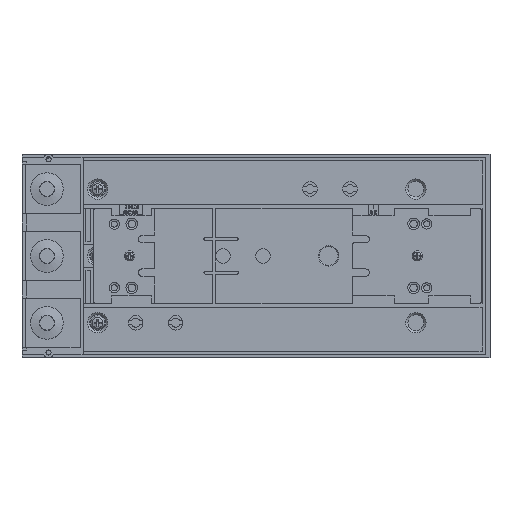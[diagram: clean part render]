
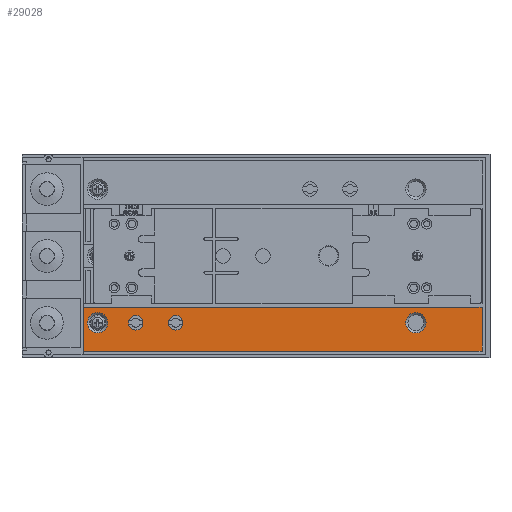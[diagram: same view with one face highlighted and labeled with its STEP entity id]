
A CAD part, top view. The second image highlights one B-rep face of the part: STEP entity #29028.
In plain terms, the highlighted planar face has unit normal (0, 0, 1).
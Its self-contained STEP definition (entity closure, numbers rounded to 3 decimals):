
#3024 = ORIENTED_EDGE ( 'NONE', *, *, #46141, .T. ) ;
#4085 = LINE ( 'NONE', #52240, #6666 ) ;
#4340 = AXIS2_PLACEMENT_3D ( 'NONE', #22448, #17775, #22093 ) ;
#4425 = ORIENTED_EDGE ( 'NONE', *, *, #5779, .T. ) ;
#4798 = VERTEX_POINT ( 'NONE', #44495 ) ;
#4905 = EDGE_LOOP ( 'NONE', ( #4425 ) ) ;
#5361 = EDGE_CURVE ( 'NONE', #17923, #17923, #33989, .T. ) ;
#5779 = EDGE_CURVE ( 'NONE', #8972, #8972, #48704, .T. ) ;
#6289 = EDGE_LOOP ( 'NONE', ( #36161 ) ) ;
#6652 = VECTOR ( 'NONE', #25416, 1000. ) ;
#6666 = VECTOR ( 'NONE', #27742, 1000. ) ;
#7605 = ORIENTED_EDGE ( 'NONE', *, *, #19253, .T. ) ;
#8539 = CARTESIAN_POINT ( 'NONE',  ( -82.75, -46., 39.25 ) ) ;
#8972 = VERTEX_POINT ( 'NONE', #39135 ) ;
#9272 = FACE_BOUND ( 'NONE', #6289, .T. ) ;
#9629 = CARTESIAN_POINT ( 'NONE',  ( 0., -65.5, 39.25 ) ) ;
#10247 = EDGE_CURVE ( 'NONE', #4798, #16033, #39932, .T. ) ;
#10611 = CARTESIAN_POINT ( 'NONE',  ( 0., -35.25, 39.25 ) ) ;
#10752 = AXIS2_PLACEMENT_3D ( 'NONE', #8539, #13067, #45766 ) ;
#10778 = AXIS2_PLACEMENT_3D ( 'NONE', #49723, #37743, #46121 ) ;
#13067 = DIRECTION ( 'NONE',  ( 0., 0., -1. ) ) ;
#13879 = VECTOR ( 'NONE', #21272, 1000. ) ;
#14032 = EDGE_CURVE ( 'NONE', #37766, #37766, #21713, .T. ) ;
#16033 = VERTEX_POINT ( 'NONE', #18681 ) ;
#16308 = FACE_OUTER_BOUND ( 'NONE', #50640, .T. ) ;
#17456 = CIRCLE ( 'NONE', #10752, 5. ) ;
#17775 = DIRECTION ( 'NONE',  ( 0., 0., -1. ) ) ;
#17923 = VERTEX_POINT ( 'NONE', #39472 ) ;
#18224 = FACE_BOUND ( 'NONE', #4905, .T. ) ;
#18446 = LINE ( 'NONE', #10611, #49819 ) ;
#18681 = CARTESIAN_POINT ( 'NONE',  ( 155.5, -65.5, 39.25 ) ) ;
#18895 = FACE_BOUND ( 'NONE', #23065, .T. ) ;
#19253 = EDGE_CURVE ( 'NONE', #16033, #36009, #4085, .T. ) ;
#19957 = DIRECTION ( 'NONE',  ( 1., 0., 0. ) ) ;
#20148 = CARTESIAN_POINT ( 'NONE',  ( 0., 0., 39.25 ) ) ;
#21272 = DIRECTION ( 'NONE',  ( 0., -1., 0. ) ) ;
#21713 = CIRCLE ( 'NONE', #10778, 5. ) ;
#22093 = DIRECTION ( 'NONE',  ( 1., 0., 0. ) ) ;
#22448 = CARTESIAN_POINT ( 'NONE',  ( -109., -46., 39.25 ) ) ;
#22504 = CARTESIAN_POINT ( 'NONE',  ( -119., -35.25, 39.25 ) ) ;
#23065 = EDGE_LOOP ( 'NONE', ( #44699 ) ) ;
#24303 = CARTESIAN_POINT ( 'NONE',  ( -119., 0., 39.25 ) ) ;
#25416 = DIRECTION ( 'NONE',  ( 1., 0., 0. ) ) ;
#27742 = DIRECTION ( 'NONE',  ( 0., 1., 0. ) ) ;
#27837 = DIRECTION ( 'NONE',  ( 0., 0., -1. ) ) ;
#28370 = DIRECTION ( 'NONE',  ( 0., 0., 1. ) ) ;
#29028 = ADVANCED_FACE ( 'NONE', ( #9272, #38111, #18224, #18895, #16308 ), #36229, .T. ) ;
#29938 = ORIENTED_EDGE ( 'NONE', *, *, #40623, .T. ) ;
#31849 = EDGE_LOOP ( 'NONE', ( #29938 ) ) ;
#32106 = DIRECTION ( 'NONE',  ( 1., 0., 0. ) ) ;
#32527 = ORIENTED_EDGE ( 'NONE', *, *, #10247, .T. ) ;
#33989 = CIRCLE ( 'NONE', #44490, 7. ) ;
#36009 = VERTEX_POINT ( 'NONE', #38737 ) ;
#36054 = CARTESIAN_POINT ( 'NONE',  ( -77.75, -46., 39.25 ) ) ;
#36161 = ORIENTED_EDGE ( 'NONE', *, *, #14032, .T. ) ;
#36229 = PLANE ( 'NONE',  #39235 ) ;
#37743 = DIRECTION ( 'NONE',  ( 0., 0., -1. ) ) ;
#37766 = VERTEX_POINT ( 'NONE', #47688 ) ;
#38111 = FACE_BOUND ( 'NONE', #31849, .T. ) ;
#38737 = CARTESIAN_POINT ( 'NONE',  ( 155.5, -35.25, 39.25 ) ) ;
#39135 = CARTESIAN_POINT ( 'NONE',  ( -102., -46., 39.25 ) ) ;
#39235 = AXIS2_PLACEMENT_3D ( 'NONE', #20148, #28370, #32106 ) ;
#39472 = CARTESIAN_POINT ( 'NONE',  ( 117., -46., 39.25 ) ) ;
#39932 = LINE ( 'NONE', #9629, #6652 ) ;
#40623 = EDGE_CURVE ( 'NONE', #50525, #50525, #17456, .T. ) ;
#43880 = DIRECTION ( 'NONE',  ( -1., 0., 0. ) ) ;
#44490 = AXIS2_PLACEMENT_3D ( 'NONE', #48203, #27837, #19957 ) ;
#44495 = CARTESIAN_POINT ( 'NONE',  ( -119., -65.5, 39.25 ) ) ;
#44699 = ORIENTED_EDGE ( 'NONE', *, *, #5361, .T. ) ;
#45766 = DIRECTION ( 'NONE',  ( 1., 0., 0. ) ) ;
#46121 = DIRECTION ( 'NONE',  ( 1., 0., 0. ) ) ;
#46141 = EDGE_CURVE ( 'NONE', #49039, #4798, #52919, .T. ) ;
#47688 = CARTESIAN_POINT ( 'NONE',  ( -50.25, -46., 39.25 ) ) ;
#48203 = CARTESIAN_POINT ( 'NONE',  ( 110., -46., 39.25 ) ) ;
#48704 = CIRCLE ( 'NONE', #4340, 7. ) ;
#49039 = VERTEX_POINT ( 'NONE', #22504 ) ;
#49723 = CARTESIAN_POINT ( 'NONE',  ( -55.25, -46., 39.25 ) ) ;
#49819 = VECTOR ( 'NONE', #43880, 1000. ) ;
#50525 = VERTEX_POINT ( 'NONE', #36054 ) ;
#50640 = EDGE_LOOP ( 'NONE', ( #7605, #52210, #3024, #32527 ) ) ;
#51956 = EDGE_CURVE ( 'NONE', #36009, #49039, #18446, .T. ) ;
#52210 = ORIENTED_EDGE ( 'NONE', *, *, #51956, .T. ) ;
#52240 = CARTESIAN_POINT ( 'NONE',  ( 155.5, 0., 39.25 ) ) ;
#52919 = LINE ( 'NONE', #24303, #13879 ) ;
